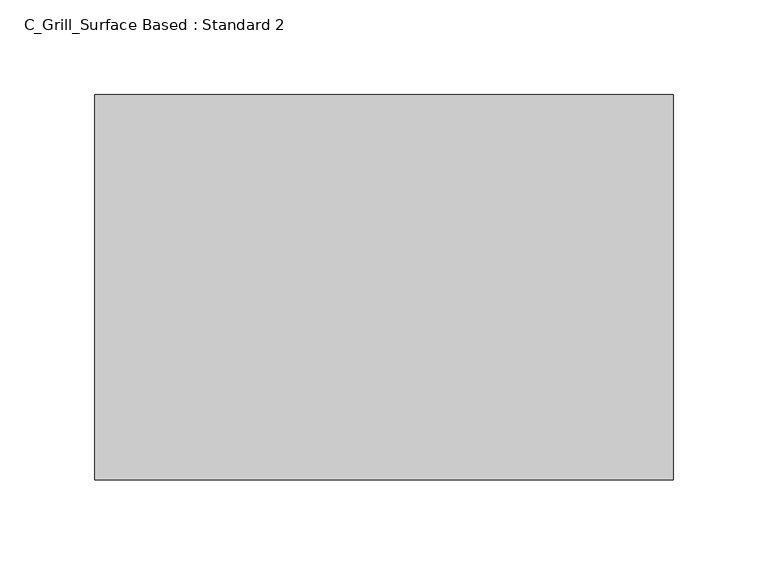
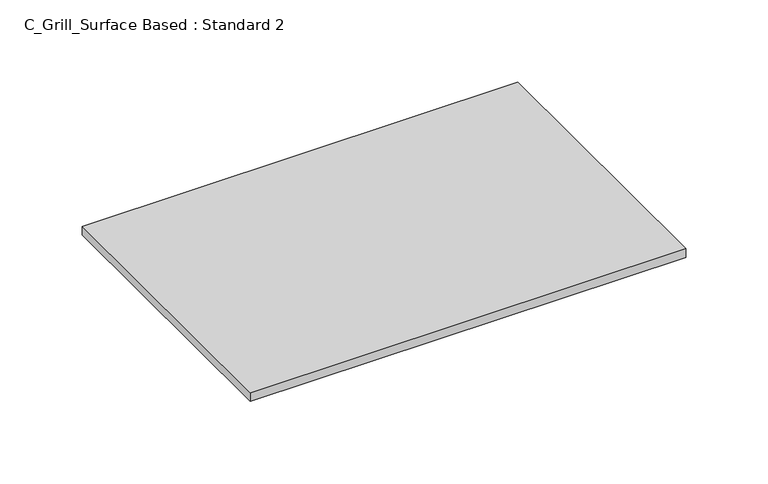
"""IFC4 building model written with IfcOpenShell, lengths in millimetres: air terminal geometry, C_Grill_Surface Based : Standard 2."""

from ifc_helpers import new_model, si_unit, origin, origin_with_axes, place, context, project, spatial, polyline, outline, extrude, source, transform, mapped, element, save


def c_grill_surface_based_standard_2_8d849078(model_context):
    return source(origin(), model_context, "Body", "SweptSolid", [
        extrude(outline(polyline([(152.4, 101.6), (152.4, -101.6), (-152.4, -101.6), (-152.4, 101.6), (152.4, 101.6)])), origin_with_axes(), (0.0, 0.0, 1.0), 6.35),
    ])


if __name__ == "__main__":
    model = new_model("IFC4")
    model_context = context("Model", 3, world=origin())
    ifc_project = project(units=[si_unit("LENGTHUNIT", "METRE", prefix="MILLI")], contexts=[model_context])
    site = spatial("IfcSite", under=ifc_project)
    building = spatial("IfcBuilding", under=site)
    placement = place(None, origin())
    c_grill_surface_based_standard_2_shape = c_grill_surface_based_standard_2_8d849078(model_context)
    element("IfcAirTerminal", 1, ObjectType="C_Grill_Surface Based : Standard 2", at=placement, inside=building, context=model_context, shape_type="MappedRepresentation", body=[
        mapped(c_grill_surface_based_standard_2_shape, transform((0.0, 0.0, 0.0), x_axis=(1.0, 0.0, 0.0), y_axis=(0.0, 1.0, 0.0), z_axis=(0.0, 0.0, 1.0))),
    ])
    save(model, "model.ifc")
